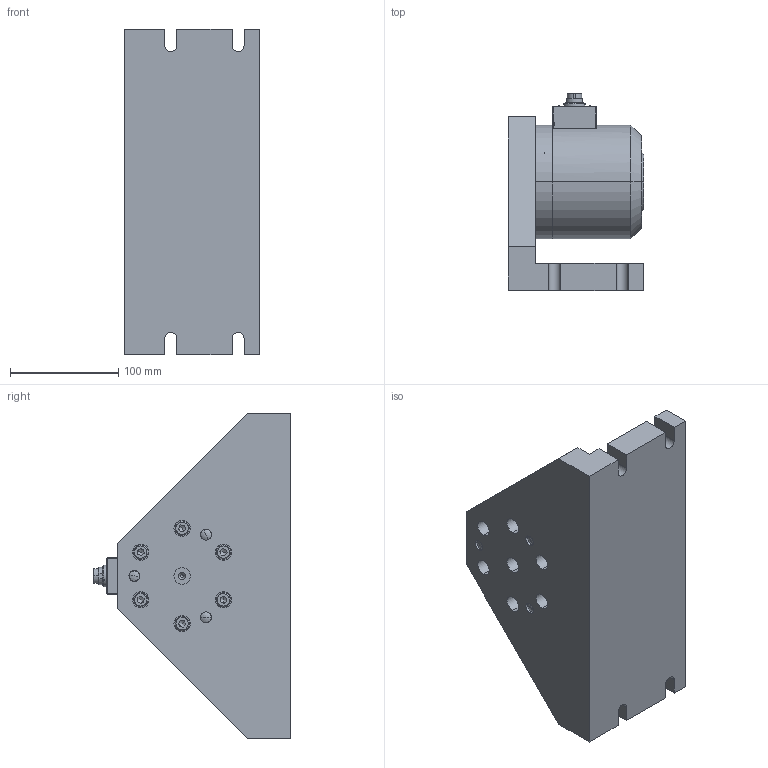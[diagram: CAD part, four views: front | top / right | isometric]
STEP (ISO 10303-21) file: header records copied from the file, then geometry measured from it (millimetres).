
FILE_DESCRIPTION (( 'STEP AP214' ), '1' );
FILE_NAME ('DRT3 mit Haltewinkel.STEP', '2020-02-12T08:16:28', ( 'nsi' ), ( '' ), 'SwSTEP 2.0', 'SolidWorks 2020', '' );
FILE_SCHEMA (( 'AUTOMOTIVE_DESIGN' ));
Length unit declared in the file: millimetre
Products named in the file (1): DRT3 mit Haltewinkel
Bounding box: 125 x 181.75 x 300 mm (x, y, z)
Volume: 2228351.6 mm3; surface area: 327536.6 mm2
Topology: 38 solids, 38 shells, 1123 faces, 2615 edges, 1625 vertices
Faces by surface type: plane 455, cylinder 330, cone 174, torus 86, bspline 46, sphere 32
Entity records: 47513 total; most frequent: CARTESIAN_POINT 8941, DIRECTION 5630, ORIENTED_EDGE 5150, EDGE_CURVE 2575, AXIS2_PLACEMENT_3D 2275, VERTEX_POINT 1625, EDGE_LOOP 1300, CIRCLE 1197
